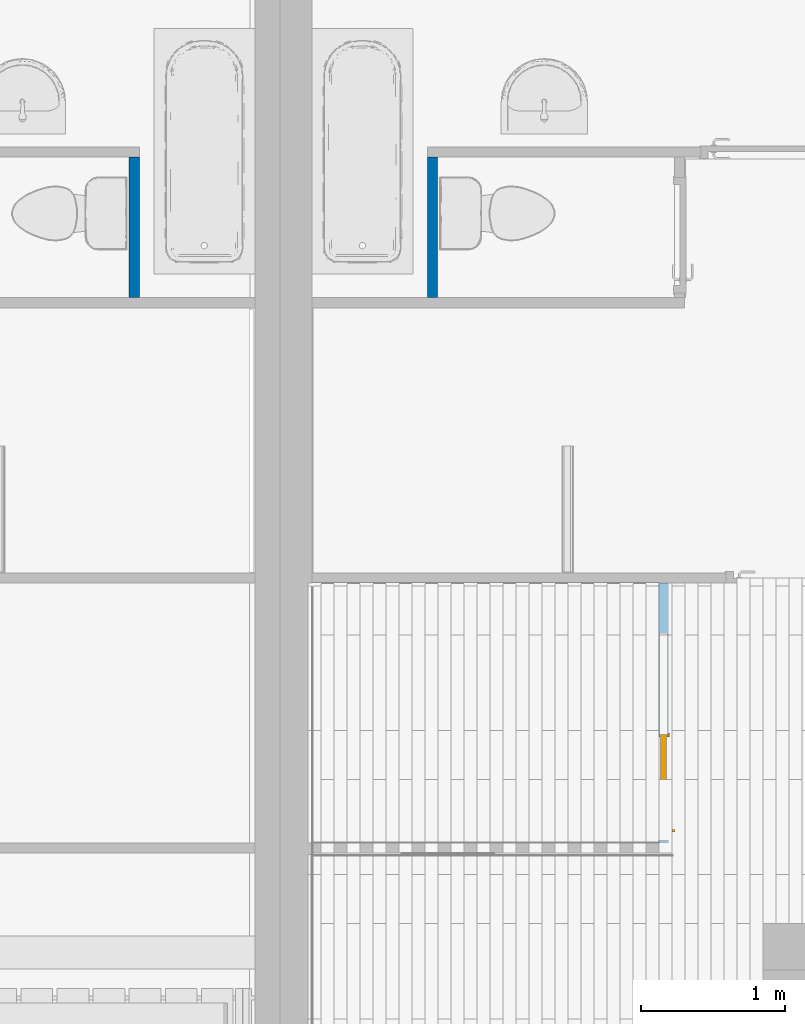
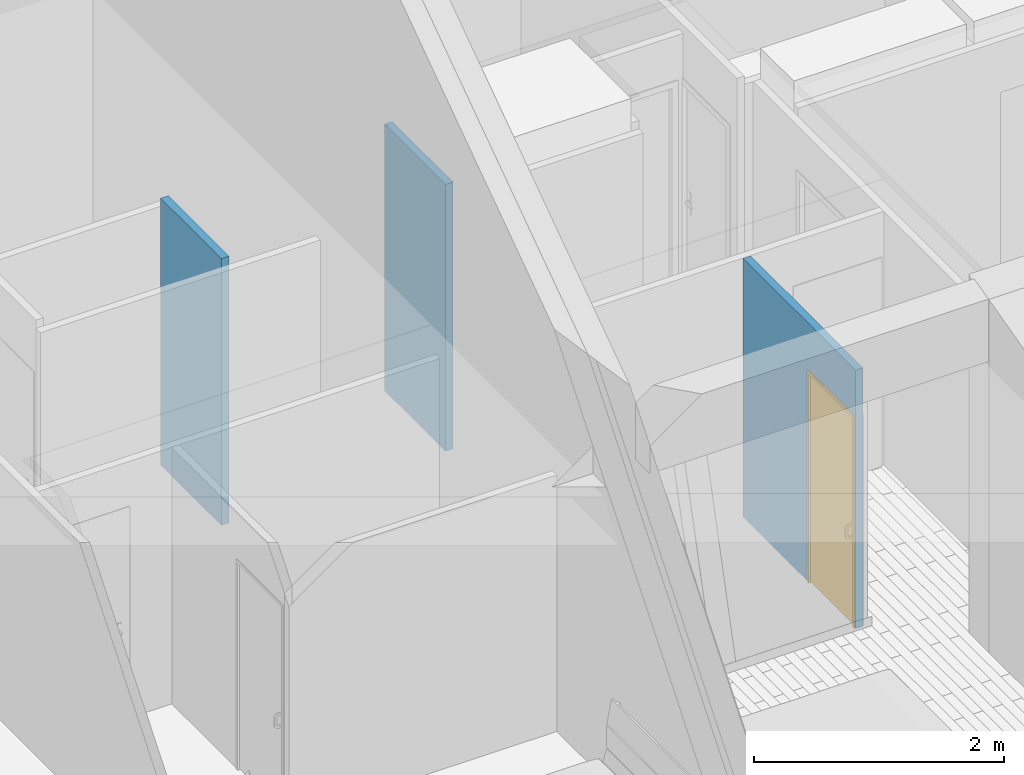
# One storey, part 35 of 50: 3 walls, 1 door, 1 opening.
"""IFC2X3 building model written with IfcOpenShell, lengths in metres."""

from ifc_helpers import new_model, entity, si_unit, converted_unit, derived_unit, direction, frame, frame_2d, origin, place, context, subcontext, project, spatial, rectangle, extrude, faceted_brep, source, transform, mapped, material, material_list, layer, layer_set, layer_usage, type_object, type_shapes, element, fill, save


model = new_model("IFC2X3")

# Units and contexts
model_context = context("Model", 3, precision=1e-05, world=origin(), true_north=direction((6.12303176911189e-17, 1.0)))
context_of_model = context(None, 3, precision=1e-05, world=origin(), true_north=direction((6.12303176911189e-17, 1.0)))
body_context = subcontext(model_context, "Body", "Model", "MODEL_VIEW")
ifc_project = project(units=[si_unit("LENGTHUNIT", "METRE"), si_unit("AREAUNIT", "SQUARE_METRE"), si_unit("VOLUMEUNIT", "CUBIC_METRE"), converted_unit("PLANEANGLEUNIT", "DEGREE", entity("IfcRatioMeasure", 0.0174532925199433), si_unit("PLANEANGLEUNIT", "RADIAN"), dimensions=[0, 0, 0, 0, 0, 0, 0]), si_unit("MASSUNIT", "GRAM", prefix="KILO"), si_unit("TIMEUNIT", "SECOND"), si_unit("FREQUENCYUNIT", "HERTZ"), si_unit("THERMODYNAMICTEMPERATUREUNIT", "DEGREE_CELSIUS"), derived_unit("THERMALTRANSMITTANCEUNIT", [(si_unit("MASSUNIT", "GRAM", prefix="KILO"), 1), (si_unit("THERMODYNAMICTEMPERATUREUNIT", "KELVIN"), -1), (si_unit("TIMEUNIT", "SECOND"), -3)]), derived_unit("VOLUMETRICFLOWRATEUNIT", [(si_unit("LENGTHUNIT", "METRE"), 3), (si_unit("TIMEUNIT", "SECOND"), -1)]), si_unit("ELECTRICCURRENTUNIT", "AMPERE"), si_unit("ELECTRICVOLTAGEUNIT", "VOLT"), si_unit("POWERUNIT", "WATT"), si_unit("FORCEUNIT", "NEWTON", prefix="KILO"), si_unit("ILLUMINANCEUNIT", "LUX"), si_unit("LUMINOUSFLUXUNIT", "LUMEN"), si_unit("LUMINOUSINTENSITYUNIT", "CANDELA"), si_unit("PRESSUREUNIT", "PASCAL")], contexts=[model_context, context_of_model])

# Site, building, storey
site_placement = place(None, origin())
site = spatial("IfcSite", under=ifc_project, at=site_placement, Name="Surface", CompositionType="ELEMENT")
building_placement = place(site_placement, origin())
building = spatial("IfcBuilding", under=site, at=building_placement, CompositionType="ELEMENT")
storey_placement = place(building_placement, frame((0.0, 0.0, 2.82)))
storey = spatial("IfcBuildingStorey", under=building, at=storey_placement, Name="ETAGE", CompositionType="ELEMENT", Elevation=2.82)

# Wall, opening, door
ifc_material_1 = material(Name="Peinture - Blanc")
ifc_layer = layer(ifc_material_1, 0.07)
ifc_layer_set = layer_set([ifc_layer], Name="Mur de base:Int.  Platre 70 mm en blanc")
ifc_layer_usage_1 = layer_usage(ifc_layer_set, "AXIS2", "NEGATIVE", 0.035)
wall_type = type_object("IfcWallType", Name="Mur de base:Int.  Platre 70 mm en blanc", PredefinedType="STANDARD", material=ifc_layer_set)
wall_1_placement = place(storey_placement, frame((86.3617857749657, 86.6075239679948, 0.0), z_axis=(0.0, 0.0, 1.0), x_axis=(0.0, -1.0, 0.0)))
wall_1 = element("IfcWallStandardCase", 1, at=wall_1_placement, inside=storey, type_object=wall_type, material=ifc_layer_usage_1, Name="Mur de base:Int.  Platre 70 mm en blanc", ObjectType="Mur de base:Int.  Platre 70 mm en blanc", context=body_context, shape_type="SweptSolid", body=[
    extrude(rectangle(XDim=1.80000000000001, YDim=0.0699999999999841, at=frame_2d((0.900000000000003, 0.0), x_axis=(-1.0, 0.0))), origin(), (0.0, 0.0, 1.0), 2.52),
])
opening_placement = place(wall_1_placement, frame((1.77999999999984, -0.185000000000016, 0.0), z_axis=(0.0, 0.0, 1.0), x_axis=(0.0, 1.0, 0.0)))
opening = element("IfcOpeningElement", 2, at=opening_placement, cuts=wall_1, Name="Mur de base:Int.  Platre 70 mm en blanc", ObjectType="Opening", context=body_context, shape_type="Brep", body=[
    faceted_brep([(0.370000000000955, 0.0, 2.055), (0.0, 0.0, 2.055), (0.0, 0.0, 0.0), (0.370000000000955, 0.0, 0.0), (0.370000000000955, 0.72999999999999, 2.055), (0.370000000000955, 0.72999999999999, 0.0), (0.210000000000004, 0.72999999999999, 2.055), (0.210000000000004, 0.72999999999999, 0.0), (0.210000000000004, 1.42999999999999, 2.055), (0.210000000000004, 1.42999999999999, 0.0), (0.159999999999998, 1.42999999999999, 2.055), (0.159999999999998, 1.42999999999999, 0.0), (0.159999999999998, 0.72999999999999, 2.055), (0.159999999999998, 0.72999999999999, 0.0), (0.0, 0.72999999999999, 2.055), (0.0, 0.72999999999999, 0.0)], [[[0, 1, 2, 3]], [[4, 0, 3, 5]], [[6, 4, 5, 7]], [[8, 6, 7, 9]], [[10, 8, 9, 11]], [[12, 10, 11, 13]], [[14, 1, 0, 4, 6, 8, 10, 12]], [[15, 13, 11, 9, 7, 5, 3, 2]], [[1, 14, 15, 2]], [[14, 12, 13, 15]]]),
])
ifc_material_2 = material(Name="Porte - Poignée")
ifc_material_3 = material(Name="Porte - Panneau")
ifc_material_4 = material(Name="Porte - Cadre")
ifc_material_list_1 = material_list([ifc_material_2, ifc_material_3, ifc_material_4])
ifc_material_list_2 = material_list([ifc_material_2, ifc_material_3, ifc_material_4])
door_style = type_object("IfcDoorStyle", Name="0.70m x 2.04m 2", ConstructionType="NOTDEFINED", OperationType="SLIDING_TO_LEFT", ParameterTakesPrecedence=False, Sizeable=False, material=ifc_material_list_2)
shared_shape = source(origin(), body_context, "Body", "Brep", [
    faceted_brep([(1.36963922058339, -0.165000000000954, 0.949316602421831), (1.374, -0.165000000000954, 0.951000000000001), (1.374, -0.165000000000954, 0.969), (1.36963922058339, -0.165000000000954, 0.97068339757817), (1.365, -0.165000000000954, 0.971255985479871), (1.36036077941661, -0.165000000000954, 0.97068339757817), (1.356, -0.165000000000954, 0.969), (1.356, -0.165000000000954, 0.951000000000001), (1.36036077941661, -0.165000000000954, 0.94931660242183), (1.365, -0.165000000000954, 0.94874401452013), (1.36963922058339, -0.16500000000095, 0.829316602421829), (1.374, -0.165000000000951, 0.831), (1.374, -0.165000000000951, 0.848999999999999), (1.36963922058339, -0.16500000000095, 0.850683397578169), (1.365, -0.16500000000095, 0.85125598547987), (1.36036077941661, -0.16500000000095, 0.850683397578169), (1.356, -0.16500000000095, 0.848999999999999), (1.356, -0.16500000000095, 0.831), (1.36036077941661, -0.16500000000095, 0.829316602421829), (1.365, -0.16500000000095, 0.828744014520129), (1.356, -0.133727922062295, 0.848999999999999), (1.356, -0.124000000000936, 0.858727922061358), (1.356, -0.124000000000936, 0.941272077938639), (1.356, -0.133727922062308, 0.951000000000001), (1.356, -0.126272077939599, 0.969), (1.356, -0.106000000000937, 0.948727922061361), (1.356, -0.106000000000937, 0.851272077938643), (1.356, -0.126272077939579, 0.831), (1.36036077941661, -0.125574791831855, 0.97068339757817), (1.365, -0.12533761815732, 0.971255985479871), (1.36963922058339, -0.125574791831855, 0.97068339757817), (1.374, -0.126272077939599, 0.969), (1.374, -0.133727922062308, 0.951000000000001), (1.374, -0.124000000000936, 0.941272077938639), (1.374, -0.124000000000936, 0.858727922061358), (1.374, -0.133727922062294, 0.848999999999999), (1.374, -0.126272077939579, 0.831), (1.374, -0.106000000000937, 0.851272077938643), (1.374, -0.106000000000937, 0.948727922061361), (1.36963922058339, -0.134425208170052, 0.949316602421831), (1.365, -0.134662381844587, 0.94874401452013), (1.36036077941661, -0.134425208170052, 0.94931660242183), (1.36036077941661, -0.104316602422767, 0.949425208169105), (1.365, -0.103744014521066, 0.949662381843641), (1.36963922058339, -0.104316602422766, 0.949425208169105), (1.36963922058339, -0.125683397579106, 0.940574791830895), (1.365, -0.126255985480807, 0.940337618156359), (1.36036077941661, -0.125683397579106, 0.940574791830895), (1.36036077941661, -0.104316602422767, 0.850574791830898), (1.365, -0.103744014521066, 0.850337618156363), (1.36963922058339, -0.104316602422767, 0.850574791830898), (1.36963922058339, -0.125683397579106, 0.859425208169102), (1.365, -0.126255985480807, 0.859662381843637), (1.36036077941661, -0.125683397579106, 0.859425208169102), (1.36036077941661, -0.125574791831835, 0.829316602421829), (1.365, -0.1253376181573, 0.828744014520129), (1.36963922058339, -0.125574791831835, 0.829316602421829), (1.36963922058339, -0.134425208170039, 0.850683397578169), (1.365, -0.134662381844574, 0.85125598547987), (1.36036077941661, -0.134425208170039, 0.850683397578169)], [[[0, 1, 2, 3, 4, 5, 6, 7, 8, 9]], [[10, 11, 12, 13, 14, 15, 16, 17, 18, 19]], [[16, 20, 21, 22, 23, 7, 6, 24, 25, 26, 27, 17]], [[5, 28, 24, 6]], [[4, 29, 28, 5]], [[4, 3, 30, 29]], [[2, 31, 30, 3]], [[1, 32, 33, 34, 35, 12, 11, 36, 37, 38, 31, 2]], [[1, 0, 39, 32]], [[40, 39, 0, 9]], [[7, 23, 41, 8]], [[40, 9, 8, 41]], [[24, 28, 42, 25]], [[29, 43, 42, 28]], [[30, 44, 43, 29]], [[30, 31, 38, 44]], [[32, 39, 45, 33]], [[46, 45, 39, 40]], [[41, 23, 22, 47]], [[47, 46, 40, 41]], [[42, 48, 26, 25]], [[43, 49, 48, 42]], [[44, 50, 49, 43]], [[44, 38, 37, 50]], [[45, 51, 34, 33]], [[51, 45, 46, 52]], [[22, 21, 53, 47]], [[52, 46, 47, 53]], [[26, 48, 54, 27]], [[49, 55, 54, 48]], [[50, 56, 55, 49]], [[50, 37, 36, 56]], [[34, 51, 57, 35]], [[58, 57, 51, 52]], [[53, 21, 20, 59]], [[59, 58, 52, 53]], [[27, 54, 18, 17]], [[19, 18, 54, 55]], [[36, 11, 10, 56]], [[19, 55, 56, 10]], [[57, 13, 12, 35]], [[13, 57, 58, 14]], [[59, 20, 16, 15]], [[15, 14, 58, 59]]]),
    faceted_brep([(1.365, -0.205000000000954, 0.971255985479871), (1.36963922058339, -0.205000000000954, 0.97068339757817), (1.374, -0.205000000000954, 0.969), (1.374, -0.205000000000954, 0.951000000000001), (1.36963922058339, -0.205000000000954, 0.94931660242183), (1.365, -0.205000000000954, 0.94874401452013), (1.36036077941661, -0.205000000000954, 0.94931660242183), (1.356, -0.205000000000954, 0.951000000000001), (1.356, -0.205000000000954, 0.969), (1.36036077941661, -0.205000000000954, 0.97068339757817), (1.36963922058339, -0.205000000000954, 0.850683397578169), (1.374, -0.205000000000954, 0.848999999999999), (1.374, -0.205000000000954, 0.831), (1.36963922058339, -0.205000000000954, 0.829316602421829), (1.365, -0.205000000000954, 0.828744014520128), (1.36036077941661, -0.205000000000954, 0.829316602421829), (1.356, -0.205000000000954, 0.831), (1.356, -0.205000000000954, 0.848999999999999), (1.36036077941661, -0.205000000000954, 0.850683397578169), (1.365, -0.205000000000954, 0.85125598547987), (1.36963922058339, -0.244425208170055, 0.97068339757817), (1.374, -0.243727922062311, 0.969), (1.365, -0.244662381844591, 0.971255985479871), (1.36036077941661, -0.244425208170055, 0.970683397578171), (1.356, -0.243727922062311, 0.969), (1.356, -0.236272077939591, 0.951000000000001), (1.356, -0.246000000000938, 0.941272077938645), (1.356, -0.246000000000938, 0.858727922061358), (1.356, -0.236272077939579, 0.848999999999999), (1.356, -0.243727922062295, 0.831), (1.356, -0.264000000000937, 0.851272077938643), (1.356, -0.264000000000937, 0.948727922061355), (1.36036077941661, -0.235574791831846, 0.94931660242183), (1.365, -0.23533761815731, 0.94874401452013), (1.374, -0.23627207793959, 0.951000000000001), (1.36963922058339, -0.235574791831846, 0.94931660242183), (1.374, -0.236272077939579, 0.848999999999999), (1.374, -0.246000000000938, 0.858727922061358), (1.374, -0.246000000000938, 0.941272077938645), (1.374, -0.264000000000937, 0.948727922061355), (1.374, -0.264000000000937, 0.851272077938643), (1.374, -0.243727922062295, 0.831), (1.36963922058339, -0.265683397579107, 0.949425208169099), (1.365, -0.266255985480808, 0.949662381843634), (1.36036077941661, -0.265683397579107, 0.949425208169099), (1.36036077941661, -0.244316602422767, 0.940574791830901), (1.365, -0.243744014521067, 0.940337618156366), (1.36963922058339, -0.244316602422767, 0.940574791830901), (1.36963922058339, -0.265683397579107, 0.850574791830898), (1.365, -0.266255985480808, 0.850337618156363), (1.36036077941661, -0.265683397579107, 0.850574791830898), (1.36036077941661, -0.244316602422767, 0.859425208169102), (1.365, -0.243744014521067, 0.859662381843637), (1.36963922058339, -0.244316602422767, 0.859425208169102), (1.36963922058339, -0.244425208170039, 0.829316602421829), (1.365, -0.244662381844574, 0.828744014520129), (1.36036077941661, -0.244425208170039, 0.829316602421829), (1.36036077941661, -0.235574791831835, 0.850683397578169), (1.365, -0.2353376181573, 0.85125598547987), (1.36963922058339, -0.235574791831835, 0.850683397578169)], [[[0, 1, 2, 3, 4, 5, 6, 7, 8, 9]], [[10, 11, 12, 13, 14, 15, 16, 17, 18, 19]], [[1, 20, 21, 2]], [[0, 22, 20, 1]], [[0, 9, 23, 22]], [[8, 24, 23, 9]], [[7, 25, 26, 27, 28, 17, 16, 29, 30, 31, 24, 8]], [[7, 6, 32, 25]], [[33, 32, 6, 5]], [[3, 34, 35, 4]], [[33, 5, 4, 35]], [[11, 36, 37, 38, 34, 3, 2, 21, 39, 40, 41, 12]], [[20, 42, 39, 21]], [[22, 43, 42, 20]], [[23, 44, 43, 22]], [[23, 24, 31, 44]], [[25, 32, 45, 26]], [[46, 45, 32, 33]], [[35, 34, 38, 47]], [[47, 46, 33, 35]], [[42, 48, 40, 39]], [[43, 49, 48, 42]], [[44, 50, 49, 43]], [[44, 31, 30, 50]], [[45, 51, 27, 26]], [[51, 45, 46, 52]], [[38, 37, 53, 47]], [[52, 46, 47, 53]], [[48, 54, 41, 40]], [[49, 55, 54, 48]], [[50, 56, 55, 49]], [[50, 30, 29, 56]], [[27, 51, 57, 28]], [[58, 57, 51, 52]], [[53, 37, 36, 59]], [[59, 58, 52, 53]], [[41, 54, 13, 12]], [[14, 13, 54, 55]], [[29, 16, 15, 56]], [[14, 55, 56, 15]], [[57, 18, 17, 28]], [[18, 57, 58, 19]], [[59, 36, 11, 10]], [[10, 19, 58, 59]]]),
    faceted_brep([(1.415, -0.205000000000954, 2.04), (1.415, -0.165000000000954, 2.04), (0.7, -0.165000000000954, 2.04), (0.7, -0.205000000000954, 2.04), (1.415, -0.205000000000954, 0.0), (0.7, -0.205000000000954, 0.0), (0.7, -0.165000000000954, 0.0), (1.415, -0.165000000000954, 0.0)], [[[0, 1, 2, 3]], [[4, 5, 6, 7]], [[1, 0, 4, 7]], [[2, 1, 7, 6]], [[3, 2, 6, 5]], [[0, 3, 5, 4]]]),
    faceted_brep([(0.7, -0.149999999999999, 0.0), (0.69, -0.149999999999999, 0.0), (0.69, -0.142000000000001, 0.0), (0.714999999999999, -0.142000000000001, 0.0), (0.714999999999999, -0.160000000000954, 0.0), (0.7, -0.160000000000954, 0.0), (0.7, -0.149999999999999, 2.055), (1.43, -0.149999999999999, 2.055), (1.43, -0.149999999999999, 0.0), (1.44, -0.149999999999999, 0.0), (1.44, -0.149999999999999, 2.065), (0.69, -0.149999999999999, 2.065), (0.69, -0.142000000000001, 2.065), (1.44, -0.142000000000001, 2.065), (1.44, -0.142000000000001, 0.0), (1.415, -0.142000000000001, 0.0), (1.415, -0.142000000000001, 2.04), (0.714999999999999, -0.142000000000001, 2.04), (0.714999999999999, -0.160000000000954, 2.04), (0.7, -0.160000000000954, 2.04), (0.7, -0.220000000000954, 0.0), (0.7, -0.220000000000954, 2.055), (0.7, -0.210000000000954, 2.04), (0.7, -0.210000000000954, 0.0), (0.69, -0.228000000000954, 0.0), (0.714999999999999, -0.228000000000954, 0.0), (0.714999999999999, -0.228000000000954, 2.04), (1.415, -0.228000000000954, 2.04), (1.415, -0.228000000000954, 0.0), (1.44, -0.228000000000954, 0.0), (1.44, -0.228000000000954, 2.065), (0.69, -0.228000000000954, 2.065), (0.69, -0.220000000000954, 0.0), (0.69, -0.220000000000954, 2.065), (1.44, -0.220000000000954, 2.065), (1.44, -0.220000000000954, 0.0), (1.43, -0.220000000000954, 0.0), (1.43, -0.220000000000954, 2.055), (0.714999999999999, -0.210000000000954, 2.04), (0.714999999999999, -0.210000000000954, 0.0)], [[[0, 1, 2, 3, 4, 5]], [[1, 0, 6, 7, 8, 9, 10, 11]], [[2, 1, 11, 12]], [[3, 2, 12, 13, 14, 15, 16, 17]], [[3, 17, 18, 4]], [[18, 19, 5, 4]], [[20, 21, 6, 0, 5, 19, 22, 23]], [[24, 25, 26, 27, 28, 29, 30, 31]], [[32, 24, 31, 33]], [[20, 32, 33, 34, 35, 36, 37, 21]], [[22, 38, 39, 23]], [[8, 7, 37, 36]], [[9, 8, 36, 35, 29, 28, 15, 14]], [[10, 9, 14, 13]], [[16, 15, 28, 27]], [[30, 29, 35, 34]], [[6, 21, 37, 7]], [[11, 10, 13, 12]], [[17, 16, 27, 26, 38, 22, 19, 18]], [[31, 30, 34, 33]], [[26, 25, 39, 38]], [[25, 24, 32, 20, 23, 39]]]),
])
type_shapes(door_style, [shared_shape])
door_placement = place(opening_placement, frame((0.370000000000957, 1.42999999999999, 0.0), z_axis=(0.0, 0.0, 1.0), x_axis=(0.0, -1.0, 0.0)))
door = element("IfcDoor", 3, at=door_placement, inside=storey, type_object=door_style, material=ifc_material_list_1, Name="Coulissante - Encastrée:0.70m x 2.04m 2", ObjectType="0.70m x 2.04m 2", OverallHeight=2.065, OverallWidth=1.44000000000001, context=body_context, shape_type="MappedRepresentation", body=[
    mapped(shared_shape, transform((0.0, 0.0, 0.0), scale=1.0)),
])
fill(opening, door)

# Walls
ifc_layer_usage_2 = layer_usage(ifc_layer_set, "AXIS2", "NEGATIVE", 0.035)
wall_2_placement = place(storey_placement, frame((84.7617857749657, 88.5842045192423, 0.0), z_axis=(0.0, 0.0, 1.0), x_axis=(0.0, 1.0, 0.0)))
element("IfcWallStandardCase", 4, at=wall_2_placement, inside=storey, type_object=wall_type, material=ifc_layer_usage_2, Name="Mur de base:Int.  Platre 70 mm en blanc", ObjectType="Mur de base:Int.  Platre 70 mm en blanc", context=body_context, shape_type="SweptSolid", body=[
    extrude(rectangle(XDim=0.973319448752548, YDim=0.0699999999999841, at=frame_2d((0.486659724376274, 0.0), x_axis=(-1.0, 0.0))), origin(), (0.0, 0.0, 1.0), 2.6),
])
ifc_layer_usage_3 = layer_usage(ifc_layer_set, "AXIS2", "POSITIVE", -0.035)
wall_3_placement = place(storey_placement, frame((82.6960189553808, 88.5842045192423, 0.0), z_axis=(0.0, 0.0, 1.0), x_axis=(0.0, 1.0, 0.0)))
element("IfcWallStandardCase", 5, at=wall_3_placement, inside=storey, type_object=wall_type, material=ifc_layer_usage_3, Name="Mur de base:Int.  Platre 70 mm en blanc", ObjectType="Mur de base:Int.  Platre 70 mm en blanc", context=body_context, shape_type="SweptSolid", body=[
    extrude(rectangle(XDim=0.973319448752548, YDim=0.0699999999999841, at=frame_2d((0.486659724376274, 0.0), x_axis=(-1.0, 0.0))), origin(), (0.0, 0.0, 1.0), 2.6),
])

save(model, "model.ifc")
